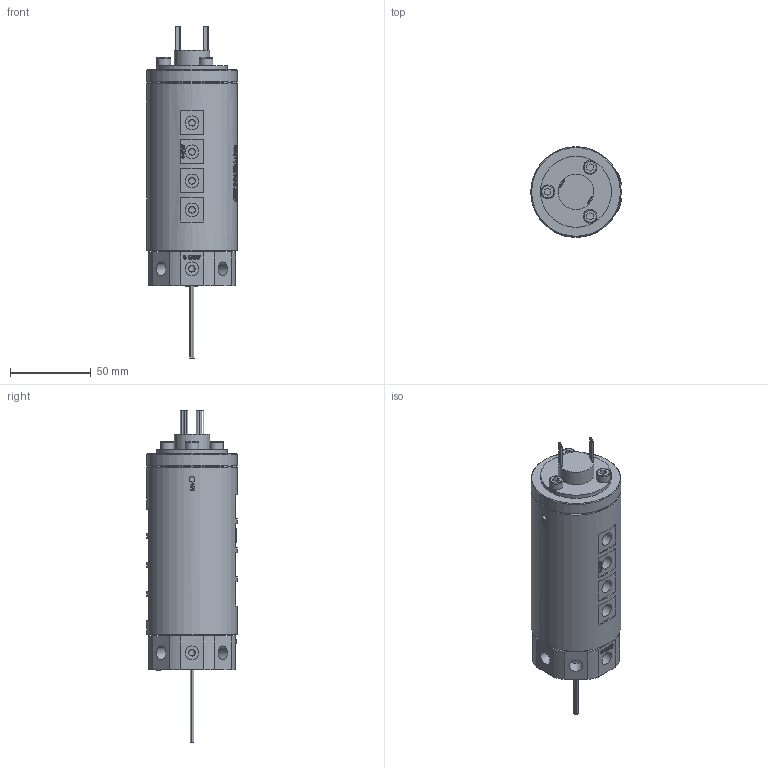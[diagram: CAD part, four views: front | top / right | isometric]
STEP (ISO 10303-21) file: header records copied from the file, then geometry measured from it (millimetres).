
FILE_DESCRIPTION(/* description */ (''),/* implementation_level */ '2;1');
FILE_NAME(/* name */ 'HQ0801-06M.stp',/* time_stamp */ '2025-02-14T11:57:14+08:00',/* author */ (''),/* organization */ (''),/* preprocessor_version */ 'ST-DEVELOPER v16.7',/* originating_system */ 'SIEMENS PLM Software NX 12.0',/* authorisation */ '');
FILE_SCHEMA (('AUTOMOTIVE_DESIGN { 1 0 10303 214 3 1 1 1 }'));
Length unit declared in the file: millimetre
Products named in the file (1): HX0540E8A2D8ngix
Bounding box: 56.99 x 56 x 205.8 mm (x, y, z)
Volume: 320951.8 mm3; surface area: 44903.3 mm2
Topology: 1 solids, 2 shells, 1158 faces, 3058 edges, 2062 vertices
Faces by surface type: extrusion 503, plane 489, cylinder 126, bspline 30, cone 7, torus 3
Full cylindrical faces by diameter (mm): 0.8 x22, 3.4 x6, 4 x24, 4.1 x8, 4.2 x8, 8 x2, 8.5 x19, 22 x1, 34 x1, 44 x1, 56 x2
Entity records: 41749 total; most frequent: CARTESIAN_POINT 17397, ORIENTED_EDGE 5732, DIRECTION 3091, EDGE_CURVE 2866, B_SPLINE_CURVE_WITH_KNOTS 2414, VERTEX_POINT 1987, EDGE_LOOP 1435, ADVANCED_FACE 1155
